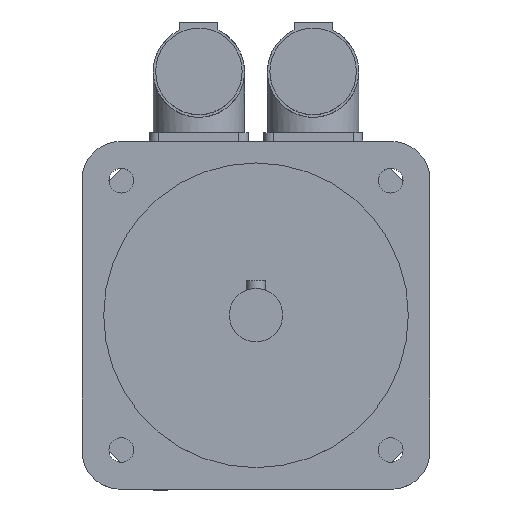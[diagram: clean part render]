
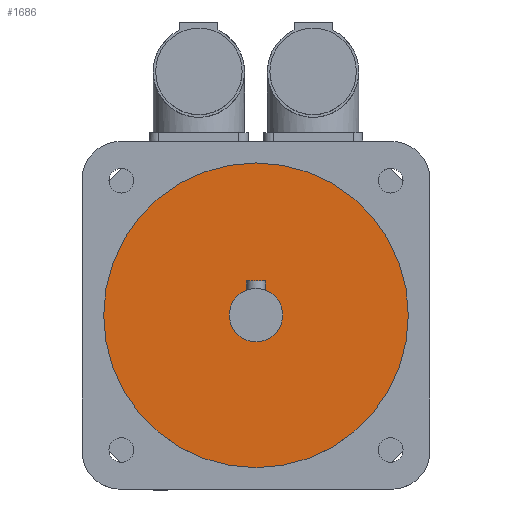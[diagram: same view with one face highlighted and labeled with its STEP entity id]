
A CAD part, top view. The second image highlights one B-rep face of the part: STEP entity #1686.
In plain terms, the highlighted planar face has unit normal (0, 0, 1).
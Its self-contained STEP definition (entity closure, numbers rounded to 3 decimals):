
#28=FACE_BOUND('',#305,.T.);
#53=CIRCLE('',#1788,7.);
#54=CIRCLE('',#1791,40.);
#202=FACE_OUTER_BOUND('',#304,.T.);
#304=EDGE_LOOP('',(#1158));
#305=EDGE_LOOP('',(#1159));
#718=VERTEX_POINT('',#2569);
#719=VERTEX_POINT('',#2573);
#892=EDGE_CURVE('',#718,#718,#53,.T.);
#893=EDGE_CURVE('',#719,#719,#54,.T.);
#1158=ORIENTED_EDGE('',*,*,#893,.T.);
#1159=ORIENTED_EDGE('',*,*,#892,.T.);
#1633=PLANE('',#1793);
#1686=ADVANCED_FACE('',(#202,#28),#1633,.T.);
#1788=AXIS2_PLACEMENT_3D('',#2570,#2000,#2001);
#1791=AXIS2_PLACEMENT_3D('',#2574,#2006,#2007);
#1793=AXIS2_PLACEMENT_3D('',#2577,#2010,#2011);
#2000=DIRECTION('center_axis',(0.,0.,-1.));
#2001=DIRECTION('ref_axis',(-1.,0.,0.));
#2006=DIRECTION('center_axis',(0.,0.,1.));
#2007=DIRECTION('ref_axis',(-1.,0.,0.));
#2010=DIRECTION('center_axis',(0.,0.,1.));
#2011=DIRECTION('ref_axis',(1.,0.,0.));
#2569=CARTESIAN_POINT('',(7.,0.,103.5));
#2570=CARTESIAN_POINT('Origin',(0.,0.,103.5));
#2573=CARTESIAN_POINT('',(40.,0.,103.5));
#2574=CARTESIAN_POINT('Origin',(0.,0.,103.5));
#2577=CARTESIAN_POINT('Origin',(0.,0.,
103.5));
